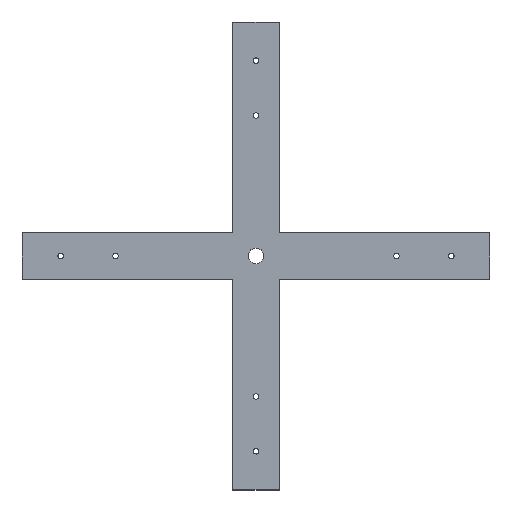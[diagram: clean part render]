
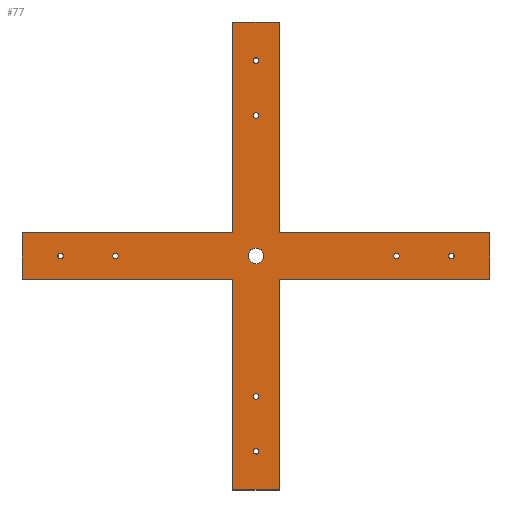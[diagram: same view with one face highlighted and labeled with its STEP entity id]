
A CAD part, top view. The second image highlights one B-rep face of the part: STEP entity #77.
In plain terms, the highlighted planar face has unit normal (0, 0, 1).
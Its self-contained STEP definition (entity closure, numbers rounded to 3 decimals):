
#77 = ADVANCED_FACE( '', ( #171, #172, #173, #174, #175, #176, #177, #178, #179, #180 ), #181, .T. );
#171 = FACE_BOUND( '', #274, .T. );
#172 = FACE_BOUND( '', #275, .T. );
#173 = FACE_BOUND( '', #276, .T. );
#174 = FACE_BOUND( '', #277, .T. );
#175 = FACE_BOUND( '', #278, .T. );
#176 = FACE_BOUND( '', #279, .T. );
#177 = FACE_BOUND( '', #280, .T. );
#178 = FACE_BOUND( '', #281, .T. );
#179 = FACE_BOUND( '', #282, .T. );
#180 = FACE_OUTER_BOUND( '', #283, .T. );
#181 = PLANE( '', #284 );
#274 = EDGE_LOOP( '', ( #433 ) );
#275 = EDGE_LOOP( '', ( #434 ) );
#276 = EDGE_LOOP( '', ( #435 ) );
#277 = EDGE_LOOP( '', ( #436 ) );
#278 = EDGE_LOOP( '', ( #437 ) );
#279 = EDGE_LOOP( '', ( #438 ) );
#280 = EDGE_LOOP( '', ( #439 ) );
#281 = EDGE_LOOP( '', ( #440 ) );
#282 = EDGE_LOOP( '', ( #441 ) );
#283 = EDGE_LOOP( '', ( #442, #443, #444, #445, #446, #447, #448, #449, #450, #451, #452, #453 ) );
#284 = AXIS2_PLACEMENT_3D( '', #454, #455, #456 );
#433 = ORIENTED_EDGE( '', *, *, #570, .F. );
#434 = ORIENTED_EDGE( '', *, *, #553, .F. );
#435 = ORIENTED_EDGE( '', *, *, #571, .F. );
#436 = ORIENTED_EDGE( '', *, *, #541, .F. );
#437 = ORIENTED_EDGE( '', *, *, #516, .F. );
#438 = ORIENTED_EDGE( '', *, *, #510, .F. );
#439 = ORIENTED_EDGE( '', *, *, #513, .F. );
#440 = ORIENTED_EDGE( '', *, *, #538, .F. );
#441 = ORIENTED_EDGE( '', *, *, #556, .F. );
#442 = ORIENTED_EDGE( '', *, *, #526, .T. );
#443 = ORIENTED_EDGE( '', *, *, #551, .T. );
#444 = ORIENTED_EDGE( '', *, *, #572, .T. );
#445 = ORIENTED_EDGE( '', *, *, #573, .T. );
#446 = ORIENTED_EDGE( '', *, *, #546, .T. );
#447 = ORIENTED_EDGE( '', *, *, #574, .T. );
#448 = ORIENTED_EDGE( '', *, *, #530, .T. );
#449 = ORIENTED_EDGE( '', *, *, #560, .T. );
#450 = ORIENTED_EDGE( '', *, *, #535, .T. );
#451 = ORIENTED_EDGE( '', *, *, #575, .T. );
#452 = ORIENTED_EDGE( '', *, *, #576, .T. );
#453 = ORIENTED_EDGE( '', *, *, #521, .T. );
#454 = CARTESIAN_POINT( '', ( 0., 0., 30. ) );
#455 = DIRECTION( '', ( 0., 0., 1. ) );
#456 = DIRECTION( '', ( 1., 0., 0. ) );
#510 = EDGE_CURVE( '', #587, #587, #588, .T. );
#513 = EDGE_CURVE( '', #592, #592, #593, .T. );
#516 = EDGE_CURVE( '', #597, #597, #598, .T. );
#521 = EDGE_CURVE( '', #607, #605, #608, .T. );
#526 = EDGE_CURVE( '', #605, #613, #615, .T. );
#530 = EDGE_CURVE( '', #622, #620, #623, .T. );
#535 = EDGE_CURVE( '', #631, #629, #632, .T. );
#538 = EDGE_CURVE( '', #635, #635, #636, .T. );
#541 = EDGE_CURVE( '', #640, #640, #641, .T. );
#546 = EDGE_CURVE( '', #650, #648, #651, .T. );
#551 = EDGE_CURVE( '', #613, #656, #658, .T. );
#553 = EDGE_CURVE( '', #660, #660, #661, .T. );
#556 = EDGE_CURVE( '', #665, #665, #666, .T. );
#560 = EDGE_CURVE( '', #620, #631, #671, .T. );
#570 = EDGE_CURVE( '', #685, #685, #686, .T. );
#571 = EDGE_CURVE( '', #687, #687, #688, .T. );
#572 = EDGE_CURVE( '', #656, #689, #690, .T. );
#573 = EDGE_CURVE( '', #689, #650, #691, .T. );
#574 = EDGE_CURVE( '', #648, #622, #692, .T. );
#575 = EDGE_CURVE( '', #629, #693, #694, .T. );
#576 = EDGE_CURVE( '', #693, #607, #695, .T. );
#587 = VERTEX_POINT( '', #706 );
#588 = CIRCLE( '', #707, 3.5 );
#592 = VERTEX_POINT( '', #711 );
#593 = CIRCLE( '', #712, 3.5 );
#597 = VERTEX_POINT( '', #716 );
#598 = CIRCLE( '', #717, 3.5 );
#605 = VERTEX_POINT( '', #725 );
#607 = VERTEX_POINT( '', #728 );
#608 = LINE( '', #729, #730 );
#613 = VERTEX_POINT( '', #737 );
#615 = LINE( '', #740, #741 );
#620 = VERTEX_POINT( '', #747 );
#622 = VERTEX_POINT( '', #750 );
#623 = LINE( '', #751, #752 );
#629 = VERTEX_POINT( '', #760 );
#631 = VERTEX_POINT( '', #763 );
#632 = LINE( '', #764, #765 );
#635 = VERTEX_POINT( '', #769 );
#636 = CIRCLE( '', #770, 3.5 );
#640 = VERTEX_POINT( '', #774 );
#641 = CIRCLE( '', #775, 3.5 );
#648 = VERTEX_POINT( '', #783 );
#650 = VERTEX_POINT( '', #786 );
#651 = LINE( '', #787, #788 );
#656 = VERTEX_POINT( '', #795 );
#658 = LINE( '', #798, #799 );
#660 = VERTEX_POINT( '', #801 );
#661 = CIRCLE( '', #802, 3.5 );
#665 = VERTEX_POINT( '', #806 );
#666 = CIRCLE( '', #807, 3.5 );
#671 = LINE( '', #813, #814 );
#685 = VERTEX_POINT( '', #833 );
#686 = CIRCLE( '', #834, 3.5 );
#687 = VERTEX_POINT( '', #835 );
#688 = CIRCLE( '', #836, 10. );
#689 = VERTEX_POINT( '', #837 );
#690 = LINE( '', #838, #839 );
#691 = LINE( '', #840, #841 );
#692 = LINE( '', #842, #843 );
#693 = VERTEX_POINT( '', #844 );
#694 = LINE( '', #845, #846 );
#695 = LINE( '', #847, #848 );
#706 = CARTESIAN_POINT( '', ( 3.5, -179.6, 30. ) );
#707 = AXIS2_PLACEMENT_3D( '', #860, #861, #862 );
#711 = CARTESIAN_POINT( '', ( 3.5, 179.6, 30. ) );
#712 = AXIS2_PLACEMENT_3D( '', #866, #867, #868 );
#716 = CARTESIAN_POINT( '', ( 3.5, -249.6, 30. ) );
#717 = AXIS2_PLACEMENT_3D( '', #872, #873, #874 );
#725 = CARTESIAN_POINT( '', ( -299., 30., 30. ) );
#728 = CARTESIAN_POINT( '', ( -30., 30., 30. ) );
#729 = CARTESIAN_POINT( '', ( -30., 30., 30. ) );
#730 = VECTOR( '', #880, 1000. );
#737 = CARTESIAN_POINT( '', ( -299., -30., 30. ) );
#740 = CARTESIAN_POINT( '', ( -299., 30., 30. ) );
#741 = VECTOR( '', #884, 1000. );
#747 = CARTESIAN_POINT( '', ( 299., 30., 30. ) );
#750 = CARTESIAN_POINT( '', ( 299., -30., 30. ) );
#751 = CARTESIAN_POINT( '', ( 299., -30., 30. ) );
#752 = VECTOR( '', #887, 1000. );
#760 = CARTESIAN_POINT( '', ( 30., 299., 30. ) );
#763 = CARTESIAN_POINT( '', ( 30., 30., 30. ) );
#764 = CARTESIAN_POINT( '', ( 30., 30., 30. ) );
#765 = VECTOR( '', #891, 1000. );
#769 = CARTESIAN_POINT( '', ( 183.1, 0., 30. ) );
#770 = AXIS2_PLACEMENT_3D( '', #893, #894, #895 );
#774 = CARTESIAN_POINT( '', ( 3.5, 249.6, 30. ) );
#775 = AXIS2_PLACEMENT_3D( '', #899, #900, #901 );
#783 = CARTESIAN_POINT( '', ( 30., -30., 30. ) );
#786 = CARTESIAN_POINT( '', ( 30., -299., 30. ) );
#787 = CARTESIAN_POINT( '', ( 30., -299., 30. ) );
#788 = VECTOR( '', #907, 1000. );
#795 = CARTESIAN_POINT( '', ( -30., -30., 30. ) );
#798 = CARTESIAN_POINT( '', ( -299., -30., 30. ) );
#799 = VECTOR( '', #911, 1000. );
#801 = CARTESIAN_POINT( '', ( -176.1, 0., 30. ) );
#802 = AXIS2_PLACEMENT_3D( '', #912, #913, #914 );
#806 = CARTESIAN_POINT( '', ( 253.1, 0., 30. ) );
#807 = AXIS2_PLACEMENT_3D( '', #918, #919, #920 );
#813 = CARTESIAN_POINT( '', ( 299., 30., 30. ) );
#814 = VECTOR( '', #925, 1000. );
#833 = CARTESIAN_POINT( '', ( -246.1, 0., 30. ) );
#834 = AXIS2_PLACEMENT_3D( '', #937, #938, #939 );
#835 = CARTESIAN_POINT( '', ( 10., 0., 30. ) );
#836 = AXIS2_PLACEMENT_3D( '', #940, #941, #942 );
#837 = CARTESIAN_POINT( '', ( -30., -299., 30. ) );
#838 = CARTESIAN_POINT( '', ( -30., -30., 30. ) );
#839 = VECTOR( '', #943, 1000. );
#840 = CARTESIAN_POINT( '', ( -30., -299., 30. ) );
#841 = VECTOR( '', #944, 1000. );
#842 = CARTESIAN_POINT( '', ( 30., -30., 30. ) );
#843 = VECTOR( '', #945, 1000. );
#844 = CARTESIAN_POINT( '', ( -30., 299., 30. ) );
#845 = CARTESIAN_POINT( '', ( 30., 299., 30. ) );
#846 = VECTOR( '', #946, 1000. );
#847 = CARTESIAN_POINT( '', ( -30., 299., 30. ) );
#848 = VECTOR( '', #947, 1000. );
#860 = CARTESIAN_POINT( '', ( 0., -179.6, 30. ) );
#861 = DIRECTION( '', ( 0., 0., 1. ) );
#862 = DIRECTION( '', ( 1., 0., 0. ) );
#866 = CARTESIAN_POINT( '', ( 0., 179.6, 30. ) );
#867 = DIRECTION( '', ( 0., 0., 1. ) );
#868 = DIRECTION( '', ( 1., 0., 0. ) );
#872 = CARTESIAN_POINT( '', ( 0., -249.6, 30. ) );
#873 = DIRECTION( '', ( 0., 0., 1. ) );
#874 = DIRECTION( '', ( 1., 0., 0. ) );
#880 = DIRECTION( '', ( -1., 0., 0. ) );
#884 = DIRECTION( '', ( 0., -1., 0. ) );
#887 = DIRECTION( '', ( 0., 1., 0. ) );
#891 = DIRECTION( '', ( 0., 1., 0. ) );
#893 = CARTESIAN_POINT( '', ( 179.6, 0., 30. ) );
#894 = DIRECTION( '', ( 0., 0., 1. ) );
#895 = DIRECTION( '', ( 1., 0., 0. ) );
#899 = CARTESIAN_POINT( '', ( 0., 249.6, 30. ) );
#900 = DIRECTION( '', ( 0., 0., 1. ) );
#901 = DIRECTION( '', ( 1., 0., 0. ) );
#907 = DIRECTION( '', ( 0., 1., 0. ) );
#911 = DIRECTION( '', ( 1., 0., 0. ) );
#912 = CARTESIAN_POINT( '', ( -179.6, 0., 30. ) );
#913 = DIRECTION( '', ( 0., 0., 1. ) );
#914 = DIRECTION( '', ( 1., 0., 0. ) );
#918 = CARTESIAN_POINT( '', ( 249.6, 0., 30. ) );
#919 = DIRECTION( '', ( 0., 0., 1. ) );
#920 = DIRECTION( '', ( 1., 0., 0. ) );
#925 = DIRECTION( '', ( -1., 0., 0. ) );
#937 = CARTESIAN_POINT( '', ( -249.6, 0., 30. ) );
#938 = DIRECTION( '', ( 0., 0., 1. ) );
#939 = DIRECTION( '', ( 1., 0., 0. ) );
#940 = CARTESIAN_POINT( '', ( 0., 0., 30. ) );
#941 = DIRECTION( '', ( 0., 0., 1. ) );
#942 = DIRECTION( '', ( 1., 0., 0. ) );
#943 = DIRECTION( '', ( 0., -1., 0. ) );
#944 = DIRECTION( '', ( 1., 0., 0. ) );
#945 = DIRECTION( '', ( 1., 0., 0. ) );
#946 = DIRECTION( '', ( -1., 0., 0. ) );
#947 = DIRECTION( '', ( 0., -1., 0. ) );
